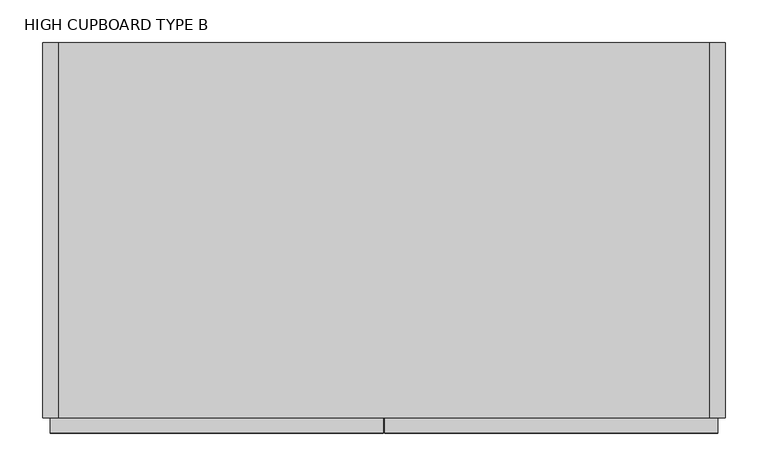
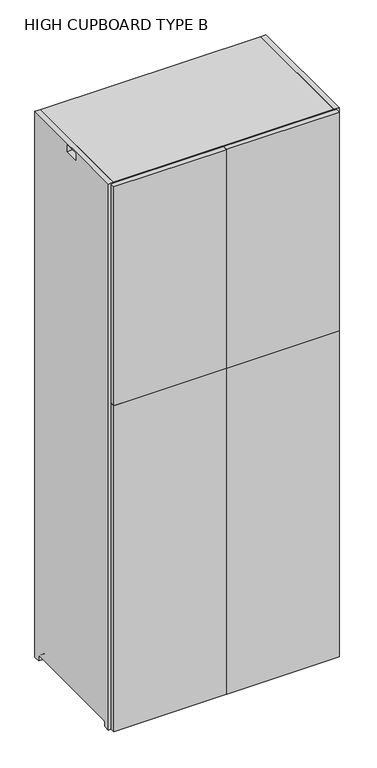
"""IFC4 building model written with IfcOpenShell, lengths in millimetres: furniture geometry, HIGH CUPBOARD TYPE B : 800mmW_High_Cupboad-TypeB."""

from ifc_helpers import new_model, si_unit, point, frame, frame_2d, origin, place, context, project, spatial, polyline, circle_curve, trimmed, segment, composite_curve, outline, extrude, faceted_brep, source, transform, mapped, element, save
from ifc_brep_helpers import plane_surface, revolved_surface, advanced_brep


def high_cupboard_type_b_229374b0(model_context):
    return source(origin(), model_context, "Body", "SolidModel", [
        extrude(outline(composite_curve([segment(polyline([(-220.0, 2000.0), (220.0, 2000.0), (220.0, 0.0), (198.0, 0.0), (198.0, 17.0)]), True, "CONTINUOUS"), segment(trimmed(circle_curve(frame_2d((194.0, 17.0)), 4.0), [point((198.0, 17.0))], [point((194.0, 21.0))], True, "CARTESIAN"), True, "CONTINUOUS"), segment(polyline([(194.0, 21.0), (-194.0, 21.0)]), True, "CONTINUOUS"), segment(trimmed(circle_curve(frame_2d((-194.0, 17.0)), 4.0), [point((-194.0, 21.0))], [point((-198.0, 17.0))], True, "CARTESIAN"), True, "CONTINUOUS"), segment(polyline([(-198.0, 17.0), (-198.0, 0.0), (-220.0, 0.0), (-220.0, 2000.0)]), True, "CONTINUOUS")], self_intersect=False), holes=[polyline([(-26.0, 1995.0), (-26.0, 1970.0), (26.0, 1970.0), (26.0, 1995.0), (-26.0, 1995.0)])]), frame((-400.0, 0.0, 0.0), z_axis=(1.0, 0.0, 0.0), x_axis=(0.0, 1.0, 0.0)), (0.0, 0.0, 1.0), 18.0),
        advanced_brep(
        [(382.0, 220.0, 18.0), (-382.0, 220.0, 18.0), (-382.0, 197.8729833, 18.0), (-376.1019215, 197.8729833, 18.0), (-376.1019215, -197.8729833, 18.0), (-382.0, -197.8729833, 18.0), (-382.0, -220.0, 18.0), (382.0, -220.0, 18.0), (382.0, 220.0, 0.0), (382.0, -220.0, 0.0), (-382.0, -220.0, 0.0), (-382.0, -198.0, 0.0), (-376.1019215, -198.0, 0.0), (-376.1019215, 198.0, 0.0), (-382.0, 198.0, 0.0), (-382.0, 220.0, 0.0), (-382.0, 198.0, 17.0), (-382.0, -198.0, 17.0), (-376.1019215, 198.0, 17.0), (-376.1019215, -198.0, 17.0)],
        [
            (0, 1),
            (1, 2),
            (2, 3),
            (3, 4),
            (4, 5),
            (5, 6),
            (6, 7),
            (7, 0),
            (8, 9),
            (9, 10),
            (10, 11),
            (11, 12),
            (12, 13),
            (13, 14),
            (14, 15),
            (15, 8),
            (0, 8),
            (15, 1),
            (14, 16),
            (16, 2, circle_curve(frame((-382.0, 194.0, 17.0), z_axis=(1.0, 0.0, 0.0), x_axis=(0.0, 1.0, 0.0)), 4.0)),
            (10, 6),
            (5, 17, circle_curve(frame((-382.0, -194.0, 17.0), z_axis=(1.0, 0.0, 0.0), x_axis=(0.0, 1.0, 0.0)), 4.0)),
            (17, 11),
            (9, 7),
            (18, 13),
            (12, 19),
            (19, 4, circle_curve(frame((-376.1019215, -194.0, 17.0), z_axis=(-1.0, 0.0, 0.0), x_axis=(0.0, 1.0, 0.0)), 4.0)),
            (3, 18, circle_curve(frame((-376.1019215, 194.0, 17.0), z_axis=(-1.0, 0.0, 0.0), x_axis=(0.0, 1.0, 0.0)), 4.0)),
            (19, 17),
            (18, 16),
        ],
        [
            plane_surface(frame((-382.0, 220.0, 18.0), z_axis=(0.0, 0.0, 1.0), x_axis=(-1.0, 0.0, 0.0))),
            plane_surface(frame((-382.0, 220.0, 0.0), z_axis=(0.0, 0.0, -1.0), x_axis=(1.0, 0.0, 0.0))),
            plane_surface(frame((382.0, 220.0, 18.0), z_axis=(0.0, 1.0, 0.0), x_axis=(0.0, 0.0, -1.0))),
            plane_surface(frame((-382.0, 220.0, 18.0), z_axis=(-1.0, 0.0, 0.0), x_axis=(0.0, 0.0, -1.0))),
            plane_surface(frame((-382.0, -220.0, 18.0), z_axis=(0.0, -1.0, 0.0), x_axis=(0.0, 0.0, -1.0))),
            plane_surface(frame((382.0, -220.0, 18.0), z_axis=(1.0, 0.0, 0.0), x_axis=(0.0, 0.0, -1.0))),
            plane_surface(frame((-376.1019215, -190.0, 17.0), z_axis=(-1.0, 0.0, 0.0), x_axis=(0.0, 0.0, 1.0))),
            revolved_surface(polyline([(-376.1019215, -190.0, 17.0), (-382.0, -190.0, 17.0)]), (-406.0458228, -194.0, 17.0), (1.0, 0.0, 0.0)),
            plane_surface(frame((-376.1019215, -198.0, 17.0), z_axis=(0.0, 1.0, 0.0), x_axis=(-1.0, 0.0, 0.0))),
            plane_surface(frame((-376.1019215, 198.0, 0.0), z_axis=(0.0, -1.0, 0.0), x_axis=(-1.0, 0.0, 0.0))),
            revolved_surface(polyline([(-376.1019215, 198.0, 17.0), (-382.0, 198.0, 17.0)]), (-406.0458228, 194.0, 17.0), (1.0, 0.0, 0.0)),
        ],
        [
            (0, [[1, 2, 3, 4, 5, 6, 7, 8]]),
            (1, [[9, 10, 11, 12, 13, 14, 15, 16]]),
            (2, [[-1, 17, -16, 18]]),
            (3, [[-18, -15, 19, 20, -2]]),
            (3, [[21, -6, 22, 23, -11]]),
            (4, [[-7, -21, -10, 24]]),
            (5, [[-8, -24, -9, -17]]),
            (6, [[25, -13, 26, 27, -4, 28]]),
            (7, [[-27, 29, -22, -5]]),
            (8, [[-26, -12, -23, -29]]),
            (9, [[-25, 30, -19, -14]]),
            (10, [[-28, -3, -20, -30]]),
        ],
    ),
        extrude(outline(composite_curve([segment(polyline([(-220.0, 2000.0), (220.0, 2000.0), (220.0, 0.0), (198.0, 0.0), (198.0, 17.0)]), True, "CONTINUOUS"), segment(trimmed(circle_curve(frame_2d((194.0, 17.0)), 4.0), [point((198.0, 17.0))], [point((194.0, 21.0))], True, "CARTESIAN"), True, "CONTINUOUS"), segment(polyline([(194.0, 21.0), (-194.0, 21.0)]), True, "CONTINUOUS"), segment(trimmed(circle_curve(frame_2d((-194.0, 17.0)), 4.0), [point((-194.0, 21.0))], [point((-198.0, 17.0))], True, "CARTESIAN"), True, "CONTINUOUS"), segment(polyline([(-198.0, 17.0), (-198.0, 0.0), (-220.0, 0.0), (-220.0, 2000.0)]), True, "CONTINUOUS")], self_intersect=False), holes=[polyline([(-26.0, 1995.0), (-26.0, 1970.0), (26.0, 1970.0), (26.0, 1995.0), (-26.0, 1995.0)])]), frame((382.0, 0.0, 0.0), z_axis=(1.0, 0.0, 0.0), x_axis=(0.0, 1.0, 0.0)), (0.0, 0.0, 1.0), 18.0),
        extrude(outline(polyline([(391.0, -220.0), (391.0, -238.0), (1.0, -238.0), (1.0, -220.0), (391.0, -220.0)])), frame((0.0, 0.0, 1196.5), z_axis=(0.0, 0.0, 1.0), x_axis=(1.0, 0.0, 0.0)), (0.0, 0.0, 1.0), 801.5),
        extrude(outline(polyline([(-391.0, -220.0), (-1.0, -220.0), (-1.0, -238.0), (-391.0, -238.0), (-391.0, -220.0)])), frame((0.0, 0.0, 1196.5), z_axis=(0.0, 0.0, 1.0), x_axis=(1.0, 0.0, 0.0)), (0.0, 0.0, 1.0), 801.5),
        extrude(outline(polyline([(382.0, 220.0), (382.0, 202.0), (-382.0, 202.0), (-382.0, 220.0), (382.0, 220.0)])), frame((0.0, 0.0, 18.0), z_axis=(0.0, 0.0, 1.0), x_axis=(1.0, 0.0, 0.0)), (0.0, 0.0, 1.0), 1964.0),
        extrude(outline(polyline([(382.0, 202.0), (382.0, -220.0), (-382.0, -220.0), (-382.0, 202.0), (382.0, 202.0)])), frame((0.0, 0.0, 398.5), z_axis=(0.0, 0.0, 1.0), x_axis=(1.0, 0.0, 0.0)), (0.0, 0.0, 1.0), 18.0),
        extrude(outline(polyline([(382.0, 202.0), (382.0, -220.0), (-382.0, -220.0), (-382.0, 202.0), (382.0, 202.0)])), frame((0.0, 0.0, 793.5), z_axis=(0.0, 0.0, 1.0), x_axis=(1.0, 0.0, 0.0)), (0.0, 0.0, 1.0), 18.0),
        extrude(outline(polyline([(382.0, 202.0), (382.0, -220.0), (-382.0, -220.0), (-382.0, 202.0), (382.0, 202.0)])), frame((0.0, 0.0, 1188.5), z_axis=(0.0, 0.0, 1.0), x_axis=(1.0, 0.0, 0.0)), (0.0, 0.0, 1.0), 18.0),
        extrude(outline(polyline([(382.0, 202.0), (382.0, -220.0), (-382.0, -220.0), (-382.0, 202.0), (382.0, 202.0)])), frame((0.0, 0.0, 1583.5), z_axis=(0.0, 0.0, 1.0), x_axis=(1.0, 0.0, 0.0)), (0.0, 0.0, 1.0), 18.0),
        extrude(outline(polyline([(9.0, 202.0), (9.0, -220.0), (-9.0, -220.0), (-9.0, 202.0), (9.0, 202.0)])), frame((0.0, 0.0, 18.0), z_axis=(0.0, 0.0, 1.0), x_axis=(1.0, 0.0, 0.0)), (0.0, 0.0, 1.0), 1964.0),
        extrude(outline(polyline([(-391.0, -220.0), (-1.0, -220.0), (-1.0, -238.0), (-391.0, -238.0), (-391.0, -220.0)])), frame((0.0, 0.0, 2.0), z_axis=(0.0, 0.0, 1.0), x_axis=(1.0, 0.0, 0.0)), (0.0, 0.0, 1.0), 1194.5),
        extrude(outline(polyline([(391.0, -220.0), (391.0, -238.0), (1.0, -238.0), (1.0, -220.0), (391.0, -220.0)])), frame((0.0, 0.0, 2.0), z_axis=(0.0, 0.0, 1.0), x_axis=(1.0, 0.0, 0.0)), (0.0, 0.0, 1.0), 1194.5),
        faceted_brep([(382.0, 220.0, 2000.0), (-382.0, 220.0, 2000.0), (-382.0, -220.0, 2000.0), (382.0, -220.0, 2000.0), (382.0, -220.0, 1982.0), (-382.0, -220.0, 1982.0), (-382.0, -26.0, 1982.0), (-376.1019215, -26.0, 1982.0), (-376.1019215, 26.0, 1982.0), (-382.0, 26.0, 1982.0), (-382.0, 220.0, 1982.0), (382.0, 220.0, 1982.0), (382.0, 26.0, 1982.0), (375.9541772, 26.0, 1982.0), (375.9541772, -26.0, 1982.0), (382.0, -26.0, 1982.0), (-382.0, 26.0, 1995.0), (-382.0, -26.0, 1995.0), (382.0, -26.0, 1995.0), (382.0, 26.0, 1995.0), (375.9541772, 26.0, 1995.0), (375.9541772, -26.0, 1995.0), (-376.1019215, -26.0, 1995.0), (-376.1019215, 26.0, 1995.0)], [[[0, 1, 2, 3]], [[4, 5, 6, 7, 8, 9, 10, 11, 12, 13, 14, 15]], [[1, 0, 11, 10]], [[2, 1, 10, 9, 16, 17, 6, 5]], [[3, 2, 5, 4]], [[0, 3, 4, 15, 18, 19, 12, 11]], [[20, 21, 14, 13]], [[14, 21, 18, 15]], [[20, 13, 12, 19]], [[21, 20, 19, 18]], [[22, 23, 8, 7]], [[22, 7, 6, 17]], [[8, 23, 16, 9]], [[23, 22, 17, 16]]]),
    ])


if __name__ == "__main__":
    model = new_model("IFC4")
    model_context = context("Model", 3, world=origin())
    ifc_project = project(units=[si_unit("LENGTHUNIT", "METRE", prefix="MILLI")], contexts=[model_context])
    site = spatial("IfcSite", under=ifc_project)
    building = spatial("IfcBuilding", under=site)
    placement = place(None, origin())
    high_cupboard_type_b_shape = high_cupboard_type_b_229374b0(model_context)
    element("IfcFurniture", 1, ObjectType="HIGH CUPBOARD TYPE B : 800mmW_High_Cupboad-TypeB", at=placement, inside=building, context=model_context, shape_type="MappedRepresentation", body=[
        mapped(high_cupboard_type_b_shape, transform((0.0, 0.0, 0.0), x_axis=(1.0, 0.0, 0.0), y_axis=(0.0, 1.0, 0.0), z_axis=(0.0, 0.0, 1.0))),
    ])
    save(model, "model.ifc")
